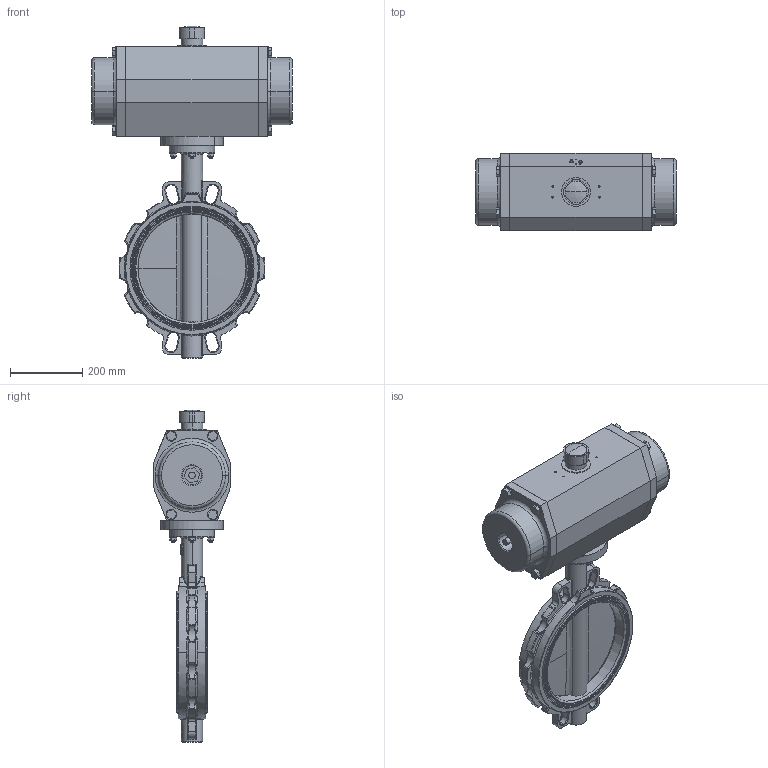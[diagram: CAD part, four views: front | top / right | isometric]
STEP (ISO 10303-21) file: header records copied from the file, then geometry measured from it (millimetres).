
FILE_DESCRIPTION (( 'STEP AP214' ), '1' );
FILE_NAME ('VTB200 DN300 + AP8S.STEP', '2015-12-02T15:45:14', ( '' ), ( '' ), 'SwSTEP 2.0', 'SolidWorks 2013', '' );
FILE_SCHEMA (( 'AUTOMOTIVE_DESIGN' ));
Length unit declared in the file: millimetre
Products named in the file (11): Klep VTB200 DN300 2013; Huis met zitting DN300 2013; VTB200 DN300 + AP8S; socket head cap screw_iso_ISO 4762 M16 x 30 --- 30N; AP8_Default<As Machined>; hex nut style 1 gradeab_iso_Hexagon Nut ISO - 4032 - M10 - W - N; plain washer chamfered grade a_iso_Washer ISO 7090 - 10; socket head cap screw_iso_ISO 4762 M10 x 50 --- 32N; YF175F10F14H26; VTB200 Wafer DN300 BS 2013; Typeplaatje xxmm
Assembly tree (22 placements, depth 3):
  VTB200 DN300 + AP8S
    VTB200 Wafer DN300 BS 2013
      Huis met zitting DN300 2013
      Klep VTB200 DN300 2013
      Typeplaatje xxmm
    YF175F10F14H26
    socket head cap screw_iso_ISO 4762 M10 x 50 --- 32N  x4
    plain washer chamfered grade a_iso_Washer ISO 7090 - 10  x4
    hex nut style 1 gradeab_iso_Hexagon Nut ISO - 4032 - M10 - W - N  x4
    AP8_Default<As Machined>
    socket head cap screw_iso_ISO 4762 M16 x 30 --- 30N  x4
Bounding box: 557 x 215 x 921 mm (x, y, z)
Volume: 29420405.2 mm3; surface area: 1313148.7 mm2
Topology: 32 solids, 32 shells, 1523 faces, 3691 edges, 2191 vertices
Faces by surface type: plane 539, cylinder 352, bspline 304, torus 198, cone 125, sphere 5
Entity records: 64968 total; most frequent: CARTESIAN_POINT 34795, ORIENTED_EDGE 5952, DIRECTION 5213, EDGE_CURVE 2976, AXIS2_PLACEMENT_3D 2045, VERTEX_POINT 1855, EDGE_LOOP 1381, ADVANCED_FACE 1247
